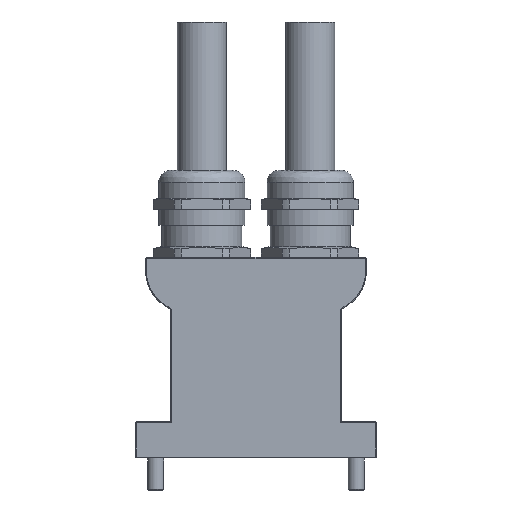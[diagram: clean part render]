
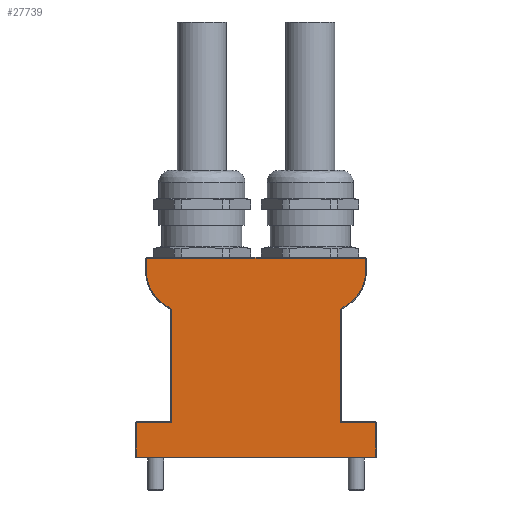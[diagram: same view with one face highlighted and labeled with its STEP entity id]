
A CAD part, front view. The second image highlights one B-rep face of the part: STEP entity #27739.
In plain terms, the highlighted planar face has unit normal (0, -1, 0).
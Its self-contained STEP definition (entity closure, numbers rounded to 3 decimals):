
#188 = DIRECTION ( 'NONE',  ( 0., 0., -1. ) ) ;
#825 = AXIS2_PLACEMENT_3D ( 'NONE', #2866, #27019, #12565 ) ;
#1312 = CARTESIAN_POINT ( 'NONE',  ( -29.8, -152.978, 9. ) ) ;
#1352 = VERTEX_POINT ( 'NONE', #29373 ) ;
#1397 = DIRECTION ( 'NONE',  ( 1., 0., 0. ) ) ;
#1453 = LINE ( 'NONE', #11678, #8605 ) ;
#1687 = VERTEX_POINT ( 'NONE', #27423 ) ;
#2597 = DIRECTION ( 'NONE',  ( 0., 0., 1. ) ) ;
#2866 = CARTESIAN_POINT ( 'NONE',  ( 17.5, -152.978, 46.473 ) ) ;
#3274 = LINE ( 'NONE', #8552, #24038 ) ;
#3499 = LINE ( 'NONE', #6778, #30318 ) ;
#4221 = LINE ( 'NONE', #11148, #9875 ) ;
#4300 = EDGE_CURVE ( 'NONE', #17191, #11102, #10958, .T. ) ;
#4597 = DIRECTION ( 'NONE',  ( 0., 0., -1. ) ) ;
#4846 = DIRECTION ( 'NONE',  ( 0., -1., 0. ) ) ;
#5765 = CARTESIAN_POINT ( 'NONE',  ( 21.05, -152.978, 37.109 ) ) ;
#5805 = CARTESIAN_POINT ( 'NONE',  ( 30., -152.978, 9. ) ) ;
#5867 = EDGE_CURVE ( 'NONE', #15129, #23287, #1453, .T. ) ;
#6778 = CARTESIAN_POINT ( 'NONE',  ( -21.05, -152.978, 9. ) ) ;
#6919 = ORIENTED_EDGE ( 'NONE', *, *, #7667, .T. ) ;
#7369 = CARTESIAN_POINT ( 'NONE',  ( -17.5, -152.978, 46.473 ) ) ;
#7558 = CARTESIAN_POINT ( 'NONE',  ( -21.05, -152.978, 8.8 ) ) ;
#7612 = AXIS2_PLACEMENT_3D ( 'NONE', #5805, #8119, #18168 ) ;
#7667 = EDGE_CURVE ( 'NONE', #28928, #1687, #21878, .T. ) ;
#7804 = ORIENTED_EDGE ( 'NONE', *, *, #28900, .T. ) ;
#7942 = EDGE_CURVE ( 'NONE', #25646, #11154, #9370, .T. ) ;
#8119 = DIRECTION ( 'NONE',  ( 0., 1., 0. ) ) ;
#8196 = VECTOR ( 'NONE', #4597, 1000. ) ;
#8552 = CARTESIAN_POINT ( 'NONE',  ( 30., -152.978, 0.2 ) ) ;
#8605 = VECTOR ( 'NONE', #26227, 1000. ) ;
#9289 = CARTESIAN_POINT ( 'NONE',  ( -27.5, -152.978, 49.8 ) ) ;
#9370 = CIRCLE ( 'NONE', #24409, 9.8 ) ;
#9562 = FACE_OUTER_BOUND ( 'NONE', #14611, .T. ) ;
#9649 = VERTEX_POINT ( 'NONE', #13063 ) ;
#9875 = VECTOR ( 'NONE', #20992, 1000. ) ;
#10323 = DIRECTION ( 'NONE',  ( -1., 0., 0. ) ) ;
#10958 = LINE ( 'NONE', #1312, #26058 ) ;
#11102 = VERTEX_POINT ( 'NONE', #18492 ) ;
#11148 = CARTESIAN_POINT ( 'NONE',  ( -21.142, -152.978, 37.168 ) ) ;
#11154 = VERTEX_POINT ( 'NONE', #23656 ) ;
#11408 = ORIENTED_EDGE ( 'NONE', *, *, #17488, .T. ) ;
#11456 = EDGE_CURVE ( 'NONE', #1687, #20966, #28818, .T. ) ;
#11678 = CARTESIAN_POINT ( 'NONE',  ( 29.8, -152.978, 9. ) ) ;
#12437 = CARTESIAN_POINT ( 'NONE',  ( 30., -152.978, 8.8 ) ) ;
#12565 = DIRECTION ( 'NONE',  ( 0., 0., -1. ) ) ;
#12704 = ORIENTED_EDGE ( 'NONE', *, *, #5867, .T. ) ;
#13063 = CARTESIAN_POINT ( 'NONE',  ( -21.05, -152.978, 37.109 ) ) ;
#13145 = DIRECTION ( 'NONE',  ( 0., 0., -1. ) ) ;
#13165 = VERTEX_POINT ( 'NONE', #7558 ) ;
#13337 = CARTESIAN_POINT ( 'NONE',  ( -27.3, -152.978, 46.473 ) ) ;
#14552 = ORIENTED_EDGE ( 'NONE', *, *, #29044, .T. ) ;
#14611 = EDGE_LOOP ( 'NONE', ( #26023, #21080, #11408, #25395, #19528, #14552, #28158, #7804, #25608, #19153, #12704, #17547, #21049, #6919 ) ) ;
#15129 = VERTEX_POINT ( 'NONE', #23793 ) ;
#17191 = VERTEX_POINT ( 'NONE', #27152 ) ;
#17399 = EDGE_CURVE ( 'NONE', #11102, #15129, #3274, .T. ) ;
#17488 = EDGE_CURVE ( 'NONE', #29768, #1352, #19928, .T. ) ;
#17547 = ORIENTED_EDGE ( 'NONE', *, *, #30311, .T. ) ;
#17808 = CARTESIAN_POINT ( 'NONE',  ( 22.783, -152.978, 38.218 ) ) ;
#18168 = DIRECTION ( 'NONE',  ( 0., 0., -1. ) ) ;
#18267 = CARTESIAN_POINT ( 'NONE',  ( 27.3, -152.978, 46.473 ) ) ;
#18492 = CARTESIAN_POINT ( 'NONE',  ( -29.8, -152.978, 0.2 ) ) ;
#18928 = VECTOR ( 'NONE', #10323, 1000. ) ;
#19079 = CARTESIAN_POINT ( 'NONE',  ( -27.3, -152.978, 46.473 ) ) ;
#19124 = VERTEX_POINT ( 'NONE', #24070 ) ;
#19153 = ORIENTED_EDGE ( 'NONE', *, *, #17399, .T. ) ;
#19528 = ORIENTED_EDGE ( 'NONE', *, *, #7942, .T. ) ;
#19621 = VECTOR ( 'NONE', #22664, 1000. ) ;
#19928 = LINE ( 'NONE', #9289, #27071 ) ;
#20011 = EDGE_CURVE ( 'NONE', #19124, #28928, #30085, .T. ) ;
#20513 = EDGE_CURVE ( 'NONE', #9649, #13165, #3499, .T. ) ;
#20687 = DIRECTION ( 'NONE',  ( -1., 0., 0. ) ) ;
#20966 = VERTEX_POINT ( 'NONE', #18267 ) ;
#20992 = DIRECTION ( 'NONE',  ( 0.842, 0., -0.539 ) ) ;
#21049 = ORIENTED_EDGE ( 'NONE', *, *, #20011, .T. ) ;
#21080 = ORIENTED_EDGE ( 'NONE', *, *, #24635, .T. ) ;
#21251 = DIRECTION ( 'NONE',  ( -1., 0., 0. ) ) ;
#21393 = CARTESIAN_POINT ( 'NONE',  ( 21.05, -152.978, 9. ) ) ;
#21401 = VECTOR ( 'NONE', #28123, 1000. ) ;
#21833 = LINE ( 'NONE', #19079, #8196 ) ;
#21878 = LINE ( 'NONE', #17808, #19621 ) ;
#22664 = DIRECTION ( 'NONE',  ( 0.842, 0., 0.539 ) ) ;
#22752 = VECTOR ( 'NONE', #20687, 1000. ) ;
#23130 = LINE ( 'NONE', #30062, #22752 ) ;
#23287 = VERTEX_POINT ( 'NONE', #25247 ) ;
#23571 = DIRECTION ( 'NONE',  ( 0., 0., -1. ) ) ;
#23656 = CARTESIAN_POINT ( 'NONE',  ( -22.783, -152.978, 38.218 ) ) ;
#23793 = CARTESIAN_POINT ( 'NONE',  ( 29.8, -152.978, 0.2 ) ) ;
#24038 = VECTOR ( 'NONE', #1397, 1000. ) ;
#24070 = CARTESIAN_POINT ( 'NONE',  ( 21.05, -152.978, 8.8 ) ) ;
#24297 = CARTESIAN_POINT ( 'NONE',  ( 27.3, -152.978, 49.8 ) ) ;
#24409 = AXIS2_PLACEMENT_3D ( 'NONE', #7369, #4846, #188 ) ;
#24635 = EDGE_CURVE ( 'NONE', #20966, #29768, #30076, .T. ) ;
#24758 = VECTOR ( 'NONE', #2597, 1000. ) ;
#25247 = CARTESIAN_POINT ( 'NONE',  ( 29.8, -152.978, 8.8 ) ) ;
#25395 = ORIENTED_EDGE ( 'NONE', *, *, #27005, .T. ) ;
#25608 = ORIENTED_EDGE ( 'NONE', *, *, #4300, .T. ) ;
#25646 = VERTEX_POINT ( 'NONE', #13337 ) ;
#26023 = ORIENTED_EDGE ( 'NONE', *, *, #11456, .T. ) ;
#26058 = VECTOR ( 'NONE', #13145, 1000. ) ;
#26227 = DIRECTION ( 'NONE',  ( 0., 0., 1. ) ) ;
#26536 = CARTESIAN_POINT ( 'NONE',  ( 27.3, -152.978, 49.8 ) ) ;
#27005 = EDGE_CURVE ( 'NONE', #1352, #25646, #21833, .T. ) ;
#27019 = DIRECTION ( 'NONE',  ( 0., -1., 0. ) ) ;
#27071 = VECTOR ( 'NONE', #21251, 1000. ) ;
#27152 = CARTESIAN_POINT ( 'NONE',  ( -29.8, -152.978, 8.8 ) ) ;
#27423 = CARTESIAN_POINT ( 'NONE',  ( 22.783, -152.978, 38.218 ) ) ;
#27739 = ADVANCED_FACE ( 'NONE', ( #9562 ), #30002, .F. ) ;
#28123 = DIRECTION ( 'NONE',  ( 0., 0., 1. ) ) ;
#28158 = ORIENTED_EDGE ( 'NONE', *, *, #20513, .T. ) ;
#28738 = LINE ( 'NONE', #12437, #18928 ) ;
#28818 = CIRCLE ( 'NONE', #825, 9.8 ) ;
#28900 = EDGE_CURVE ( 'NONE', #13165, #17191, #23130, .T. ) ;
#28928 = VERTEX_POINT ( 'NONE', #5765 ) ;
#29044 = EDGE_CURVE ( 'NONE', #11154, #9649, #4221, .T. ) ;
#29373 = CARTESIAN_POINT ( 'NONE',  ( -27.3, -152.978, 49.8 ) ) ;
#29768 = VERTEX_POINT ( 'NONE', #24297 ) ;
#30002 = PLANE ( 'NONE',  #7612 ) ;
#30062 = CARTESIAN_POINT ( 'NONE',  ( 30., -152.978, 8.8 ) ) ;
#30076 = LINE ( 'NONE', #26536, #24758 ) ;
#30085 = LINE ( 'NONE', #21393, #21401 ) ;
#30311 = EDGE_CURVE ( 'NONE', #23287, #19124, #28738, .T. ) ;
#30318 = VECTOR ( 'NONE', #23571, 1000. ) ;
